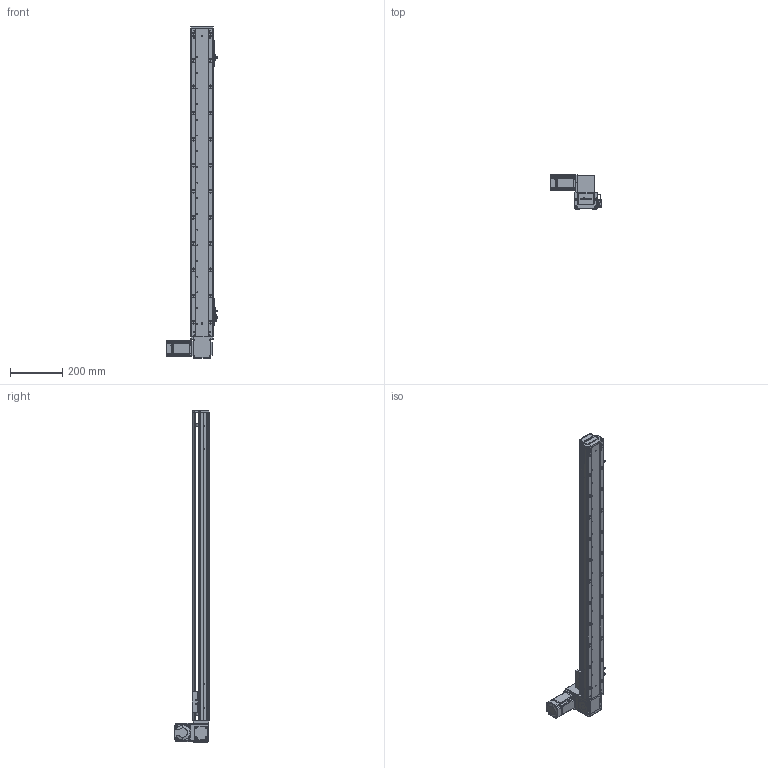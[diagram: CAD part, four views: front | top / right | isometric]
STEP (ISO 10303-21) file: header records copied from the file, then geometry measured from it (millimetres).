
FILE_DESCRIPTION (( 'STEP AP203' ), '1' );
FILE_NAME ('RY80-T-300-UL.SLDASM_1000.step', '2021-03-01T02:17:15', ( '盈信电脑' ), ( '东莞市道滘镇水果街19号' ), 'SwSTEP 2.0', 'SolidWorks 2012', '' );
FILE_SCHEMA (( 'CONFIG_CONTROL_DESIGN' ));
Length unit declared in the file: millimetre
Products named in the file (19): RY80-T肮祭湍揤輸1; RY80俋离覜茼え; RY80-T-翋肮祭謫釱; 覜茼ん672; RY80-T-300-UL倰第奻裔啣_1000; RY80-T綴裔啣; 672嫖萇羲壽假蚾釱; RY80-T-300-UL倰第菁釱_1000; RY80-T肮祭謫臏賑輸; RY80-T肮祭湍揤輸2; RY80-T粣創揤踡輸; 滅袉蝶18-10; RY80-T萇儂假蚾啣; RY80-T-M4蹟翐2; RY80-T-上下折同步轮盖板; RY80-T-300-UL.SLDASM_1000; RY80-T肮祭謫奻殏俋欶; 1; RY80-T翋肮祭謫裔啣
Assembly tree (24 placements, depth 2):
  RY80-T-300-UL.SLDASM_1000
    RY80-T-300-UL倰第菁釱_1000
    RY80-T肮祭謫臏賑輸
    RY80-T-300-UL倰第奻裔啣_1000
    RY80-T綴裔啣
    672嫖萇羲壽假蚾釱  x2
    覜茼ん672  x3
    RY80俋离覜茼え
    RY80-T-翋肮祭謫釱
    RY80-T肮祭湍揤輸1
    RY80-T肮祭湍揤輸2
    RY80-T萇儂假蚾啣
    RY80-T粣創揤踡輸  x2
    滅袉蝶18-10  x2
    RY80-T翋肮祭謫裔啣
    1
    RY80-T肮祭謫奻殏俋欶
    RY80-T-M4蹟翐2  x2
    RY80-T-上下折同步轮盖板
Bounding box: 198.7 x 130.5 x 1270 mm (x, y, z)
Volume: 2187261.1 mm3; surface area: 919750.9 mm2
Topology: 24 solids, 24 shells, 2690 faces, 7453 edges, 4843 vertices
Faces by surface type: plane 1388, cylinder 1093, cone 153, bspline 56
Entity records: 86131 total; most frequent: CARTESIAN_POINT 22136, ORIENTED_EDGE 13290, DIRECTION 12260, EDGE_CURVE 6645, VERTEX_POINT 4364, AXIS2_PLACEMENT_3D 4168, VECTOR 3924, LINE 3924
